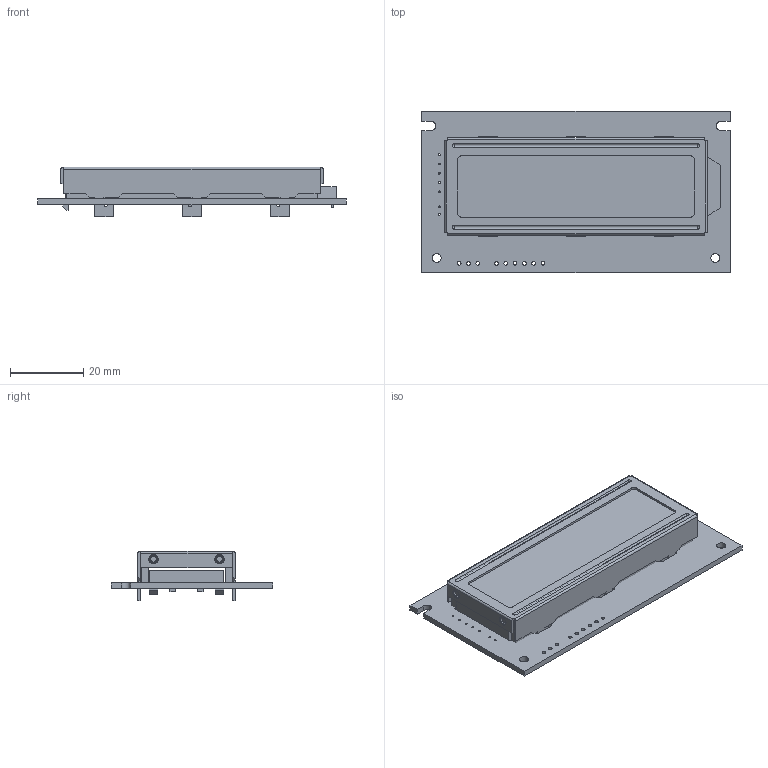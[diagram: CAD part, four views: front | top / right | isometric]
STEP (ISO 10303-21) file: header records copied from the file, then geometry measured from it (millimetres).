
FILE_DESCRIPTION (( 'STEP AP214' ), '1' );
FILE_NAME ('verified_ec1602s3skx6b-ba_asm.STEP', '2019-12-30T16:37:35', ( '' ), ( '' ), 'SwSTEP 2.0', 'SolidWorks 2018', '' );
FILE_SCHEMA (( 'AUTOMOTIVE_DESIGN' ));
Length unit declared in the file: millimetre
Products named in the file (1): verified_ec1602s3skx6b-ba_asm
Bounding box: 84 x 44 x 13.5 mm (x, y, z)
Volume: 17820.2 mm3; surface area: 22468.4 mm2
Topology: 6 solids, 6 shells, 320 faces, 875 edges, 574 vertices
Faces by surface type: plane 191, cylinder 96, cone 16, sphere 8, torus 8, bspline 1
Entity records: 10534 total; most frequent: CARTESIAN_POINT 2068, DIRECTION 1741, ORIENTED_EDGE 1716, EDGE_CURVE 858, LINE 605, VECTOR 605, VERTEX_POINT 570, AXIS2_PLACEMENT_3D 568
